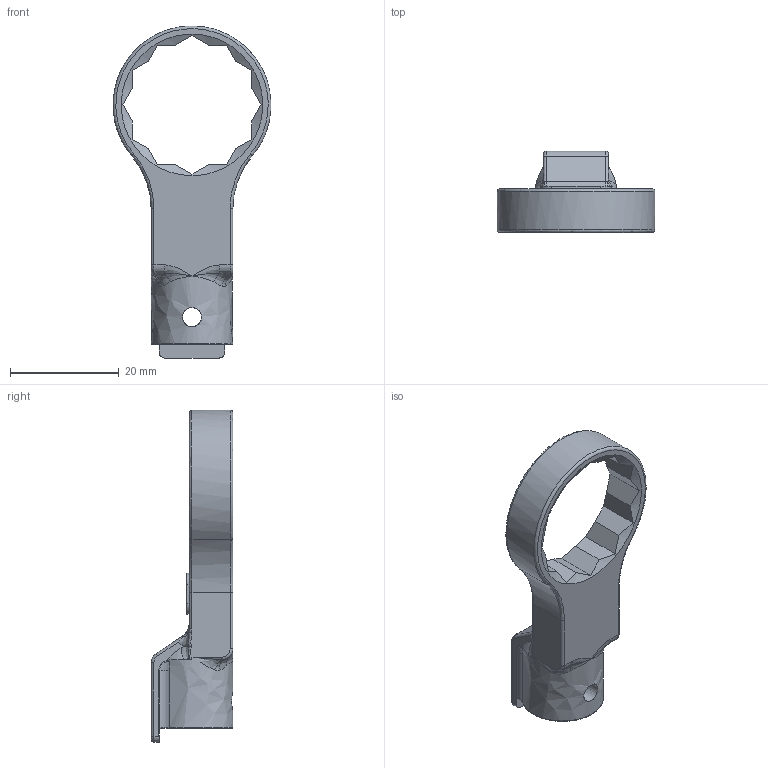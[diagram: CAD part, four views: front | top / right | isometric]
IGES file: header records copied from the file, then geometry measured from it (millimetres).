
Global section: file name: RH10DX22; native system: Autodesk Inventor 2016; preprocessor: unknown; author: Q600; date: 20151110.155036; units: millimetre
Bounding box: 28.96 x 15 x 60.99 mm (x, y, z)
Volume: 5436.4 mm3; surface area: 3773.8 mm2
Topology: 1 solids, 1 shells, 128 faces, 345 edges, 209 vertices
Faces by surface type: bspline 128
